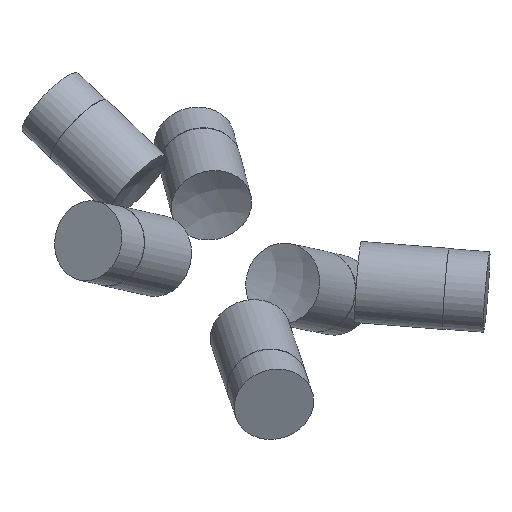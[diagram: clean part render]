
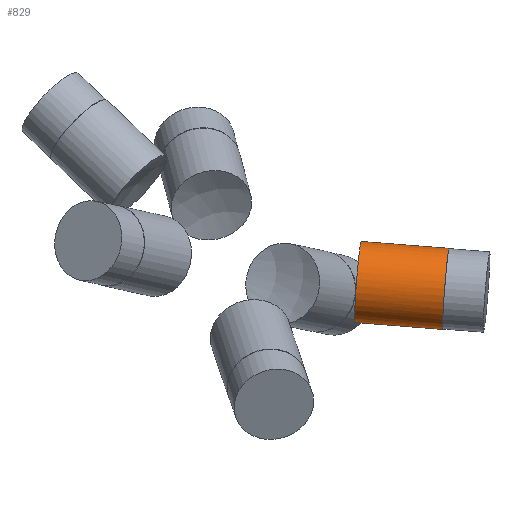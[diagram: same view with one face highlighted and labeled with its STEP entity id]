
A CAD part, top view. The second image highlights one B-rep face of the part: STEP entity #829.
In plain terms, the highlighted cylindrical face has radius 6 mm (diameter 12 mm), a full revolution.
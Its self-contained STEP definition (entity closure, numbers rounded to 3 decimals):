
#22 = VERTEX_POINT('',#23);
#23 = CARTESIAN_POINT('',(18.918,0.,
    6.488));
#33 = SPHERICAL_SURFACE('',#34,20.);
#34 = AXIS2_PLACEMENT_3D('',#35,#36,#37);
#35 = CARTESIAN_POINT('',(0.,0.,0.));
#36 = DIRECTION('',(0.,0.,1.));
#37 = DIRECTION('',(1.,0.,-0.));
#53 = EDGE_CURVE('',#54,#22,#56,.T.);
#54 = VERTEX_POINT('',#55);
#55 = CARTESIAN_POINT('',(19.474,4.506,0.674)
  );
#56 = SURFACE_CURVE('',#57,(#62,#80),.PCURVE_S1.);
#57 = CIRCLE('',#58,6.);
#58 = AXIS2_PLACEMENT_3D('',#59,#60,#61);
#59 = CARTESIAN_POINT('',(19.01,-1.476,0.674
    ));
#60 = DIRECTION('',(0.996,-0.077,
    0.035));
#61 = DIRECTION('',(0.077,0.997,0.)
  );
#62 = PCURVE('',#33,#63);
#63 = DEFINITIONAL_REPRESENTATION('',(#64),#79);
#64 = B_SPLINE_CURVE_WITH_KNOTS('',7,(#65,#66,#67,#68,#69,#70,#71,#72,
    #73,#74,#75,#76,#77,#78),.UNSPECIFIED.,.F.,.F.,(8,6,8),(0.,
    0.662,1.324),.UNSPECIFIED.);
#65 = CARTESIAN_POINT('',(0.227,0.034));
#66 = CARTESIAN_POINT('',(0.228,0.062));
#67 = CARTESIAN_POINT('',(0.225,0.09));
#68 = CARTESIAN_POINT('',(0.219,0.119));
#69 = CARTESIAN_POINT('',(0.211,0.146));
#70 = CARTESIAN_POINT('',(0.199,0.172));
#71 = CARTESIAN_POINT('',(0.185,0.197));
#72 = CARTESIAN_POINT('',(0.15,0.243));
#73 = CARTESIAN_POINT('',(0.13,0.264));
#74 = CARTESIAN_POINT('',(0.108,0.283));
#75 = CARTESIAN_POINT('',(0.083,0.299));
#76 = CARTESIAN_POINT('',(0.057,0.313));
#77 = CARTESIAN_POINT('',(0.029,0.323));
#78 = CARTESIAN_POINT('',(0.,0.33));
#79 = ( GEOMETRIC_REPRESENTATION_CONTEXT(2) 
PARAMETRIC_REPRESENTATION_CONTEXT() REPRESENTATION_CONTEXT('2D SPACE',''
  ) );
#80 = PCURVE('',#81,#86);
#81 = CYLINDRICAL_SURFACE('',#82,6.);
#82 = AXIS2_PLACEMENT_3D('',#83,#84,#85);
#83 = CARTESIAN_POINT('',(0.,0.,0.));
#84 = DIRECTION('',(0.996,-0.077,
    0.035));
#85 = DIRECTION('',(0.077,0.997,0.)
  );
#86 = DEFINITIONAL_REPRESENTATION('',(#87),#91);
#87 = LINE('',#88,#89);
#88 = CARTESIAN_POINT('',(0.,19.079));
#89 = VECTOR('',#90,1.);
#90 = DIRECTION('',(1.,0.));
#91 = ( GEOMETRIC_REPRESENTATION_CONTEXT(2) 
PARAMETRIC_REPRESENTATION_CONTEXT() REPRESENTATION_CONTEXT('2D SPACE',''
  ) );
#93 = EDGE_CURVE('',#94,#54,#96,.T.);
#94 = VERTEX_POINT('',#95);
#95 = CARTESIAN_POINT('',(19.33,0.,
    -5.133));
#96 = SURFACE_CURVE('',#97,(#102,#120),.PCURVE_S1.);
#97 = CIRCLE('',#98,6.);
#98 = AXIS2_PLACEMENT_3D('',#99,#100,#101);
#99 = CARTESIAN_POINT('',(19.01,-1.476,0.674
    ));
#100 = DIRECTION('',(0.996,-0.077,
    0.035));
#101 = DIRECTION('',(0.077,0.997,0.
    ));
#102 = PCURVE('',#33,#103);
#103 = DEFINITIONAL_REPRESENTATION('',(#104),#119);
#104 = B_SPLINE_CURVE_WITH_KNOTS('',7,(#105,#106,#107,#108,#109,#110,
    #111,#112,#113,#114,#115,#116,#117,#118),.UNSPECIFIED.,.F.,.F.,(8,6,
    8),(4.965,5.624,6.283),.UNSPECIFIED.);
#105 = CARTESIAN_POINT('',(0.,-0.26));
#106 = CARTESIAN_POINT('',(0.028,-0.252));
#107 = CARTESIAN_POINT('',(0.056,-0.242));
#108 = CARTESIAN_POINT('',(0.082,-0.229));
#109 = CARTESIAN_POINT('',(0.106,-0.212));
#110 = CARTESIAN_POINT('',(0.128,-0.194));
#111 = CARTESIAN_POINT('',(0.147,-0.173));
#112 = CARTESIAN_POINT('',(0.182,-0.128));
#113 = CARTESIAN_POINT('',(0.197,-0.104));
#114 = CARTESIAN_POINT('',(0.208,-0.078));
#115 = CARTESIAN_POINT('',(0.218,-0.051));
#116 = CARTESIAN_POINT('',(0.224,-0.023));
#117 = CARTESIAN_POINT('',(0.227,0.005));
#118 = CARTESIAN_POINT('',(0.227,0.034));
#119 = ( GEOMETRIC_REPRESENTATION_CONTEXT(2) 
PARAMETRIC_REPRESENTATION_CONTEXT() REPRESENTATION_CONTEXT('2D SPACE',''
  ) );
#120 = PCURVE('',#81,#121);
#121 = DEFINITIONAL_REPRESENTATION('',(#122),#126);
#122 = LINE('',#123,#124);
#123 = CARTESIAN_POINT('',(0.,19.079));
#124 = VECTOR('',#125,1.);
#125 = DIRECTION('',(1.,0.));
#126 = ( GEOMETRIC_REPRESENTATION_CONTEXT(2) 
PARAMETRIC_REPRESENTATION_CONTEXT() REPRESENTATION_CONTEXT('2D SPACE',''
  ) );
#353 = EDGE_CURVE('',#22,#94,#354,.T.);
#354 = SURFACE_CURVE('',#355,(#360,#394),.PCURVE_S1.);
#355 = CIRCLE('',#356,6.);
#356 = AXIS2_PLACEMENT_3D('',#357,#358,#359);
#357 = CARTESIAN_POINT('',(19.01,-1.476,
    0.674));
#358 = DIRECTION('',(0.996,-0.077,
    0.035));
#359 = DIRECTION('',(0.077,0.997,0.
    ));
#360 = PCURVE('',#33,#361);
#361 = DEFINITIONAL_REPRESENTATION('',(#362),#393);
#362 = B_SPLINE_CURVE_WITH_KNOTS('',8,(#363,#364,#365,#366,#367,#368,
    #369,#370,#371,#372,#373,#374,#375,#376,#377,#378,#379,#380,#381,
    #382,#383,#384,#385,#386,#387,#388,#389,#390,#391,#392),
  .UNSPECIFIED.,.F.,.F.,(9,7,7,7,9),(1.324,2.234,
    2.917,3.941,4.965),.UNSPECIFIED.);
#363 = CARTESIAN_POINT('',(6.283,0.33));
#364 = CARTESIAN_POINT('',(6.248,0.339));
#365 = CARTESIAN_POINT('',(6.212,0.343));
#366 = CARTESIAN_POINT('',(6.175,0.343));
#367 = CARTESIAN_POINT('',(6.139,0.338));
#368 = CARTESIAN_POINT('',(6.103,0.328));
#369 = CARTESIAN_POINT('',(6.07,0.313));
#370 = CARTESIAN_POINT('',(6.04,0.295));
#371 = CARTESIAN_POINT('',(5.992,0.257));
#372 = CARTESIAN_POINT('',(5.974,0.239));
#373 = CARTESIAN_POINT('',(5.957,0.219));
#374 = CARTESIAN_POINT('',(5.942,0.197));
#375 = CARTESIAN_POINT('',(5.93,0.174));
#376 = CARTESIAN_POINT('',(5.92,0.15));
#377 = CARTESIAN_POINT('',(5.913,0.126));
#378 = CARTESIAN_POINT('',(5.899,0.063));
#379 = CARTESIAN_POINT('',(5.897,0.024));
#380 = CARTESIAN_POINT('',(5.9,-0.015));
#381 = CARTESIAN_POINT('',(5.908,-0.053));
#382 = CARTESIAN_POINT('',(5.922,-0.09));
#383 = CARTESIAN_POINT('',(5.94,-0.124));
#384 = CARTESIAN_POINT('',(5.964,-0.155));
#385 = CARTESIAN_POINT('',(6.019,-0.209));
#386 = CARTESIAN_POINT('',(6.051,-0.233));
#387 = CARTESIAN_POINT('',(6.086,-0.251));
#388 = CARTESIAN_POINT('',(6.124,-0.265));
#389 = CARTESIAN_POINT('',(6.164,-0.272));
#390 = CARTESIAN_POINT('',(6.205,-0.274));
#391 = CARTESIAN_POINT('',(6.245,-0.269));
#392 = CARTESIAN_POINT('',(6.283,-0.26));
#393 = ( GEOMETRIC_REPRESENTATION_CONTEXT(2) 
PARAMETRIC_REPRESENTATION_CONTEXT() REPRESENTATION_CONTEXT('2D SPACE',''
  ) );
#394 = PCURVE('',#81,#395);
#395 = DEFINITIONAL_REPRESENTATION('',(#396),#400);
#396 = LINE('',#397,#398);
#397 = CARTESIAN_POINT('',(0.,19.079));
#398 = VECTOR('',#399,1.);
#399 = DIRECTION('',(1.,0.));
#400 = ( GEOMETRIC_REPRESENTATION_CONTEXT(2) 
PARAMETRIC_REPRESENTATION_CONTEXT() REPRESENTATION_CONTEXT('2D SPACE',''
  ) );
#829 = ADVANCED_FACE('',(#830),#81,.T.);
#830 = FACE_BOUND('',#831,.T.);
#831 = EDGE_LOOP('',(#832,#855,#882,#883,#884,#885));
#832 = ORIENTED_EDGE('',*,*,#833,.T.);
#833 = EDGE_CURVE('',#54,#834,#836,.T.);
#834 = VERTEX_POINT('',#835);
#835 = CARTESIAN_POINT('',(32.478,3.496,1.134
    ));
#836 = SEAM_CURVE('',#837,(#841,#848),.PCURVE_S1.);
#837 = LINE('',#838,#839);
#838 = CARTESIAN_POINT('',(0.465,5.982,
    0.));
#839 = VECTOR('',#840,1.);
#840 = DIRECTION('',(0.996,-0.077,
    0.035));
#841 = PCURVE('',#81,#842);
#842 = DEFINITIONAL_REPRESENTATION('',(#843),#847);
#843 = LINE('',#844,#845);
#844 = CARTESIAN_POINT('',(6.283,-0.));
#845 = VECTOR('',#846,1.);
#846 = DIRECTION('',(0.,1.));
#847 = ( GEOMETRIC_REPRESENTATION_CONTEXT(2) 
PARAMETRIC_REPRESENTATION_CONTEXT() REPRESENTATION_CONTEXT('2D SPACE',''
  ) );
#848 = PCURVE('',#81,#849);
#849 = DEFINITIONAL_REPRESENTATION('',(#850),#854);
#850 = LINE('',#851,#852);
#851 = CARTESIAN_POINT('',(0.,-0.));
#852 = VECTOR('',#853,1.);
#853 = DIRECTION('',(0.,1.));
#854 = ( GEOMETRIC_REPRESENTATION_CONTEXT(2) 
PARAMETRIC_REPRESENTATION_CONTEXT() REPRESENTATION_CONTEXT('2D SPACE',''
  ) );
#855 = ORIENTED_EDGE('',*,*,#856,.F.);
#856 = EDGE_CURVE('',#834,#834,#857,.T.);
#857 = SURFACE_CURVE('',#858,(#863,#870),.PCURVE_S1.);
#858 = CIRCLE('',#859,6.);
#859 = AXIS2_PLACEMENT_3D('',#860,#861,#862);
#860 = CARTESIAN_POINT('',(32.013,-2.486,
    1.134));
#861 = DIRECTION('',(0.996,-0.077,
    0.035));
#862 = DIRECTION('',(0.077,0.997,0.
    ));
#863 = PCURVE('',#81,#864);
#864 = DEFINITIONAL_REPRESENTATION('',(#865),#869);
#865 = LINE('',#866,#867);
#866 = CARTESIAN_POINT('',(0.,32.13));
#867 = VECTOR('',#868,1.);
#868 = DIRECTION('',(1.,0.));
#869 = ( GEOMETRIC_REPRESENTATION_CONTEXT(2) 
PARAMETRIC_REPRESENTATION_CONTEXT() REPRESENTATION_CONTEXT('2D SPACE',''
  ) );
#870 = PCURVE('',#871,#876);
#871 = PLANE('',#872);
#872 = AXIS2_PLACEMENT_3D('',#873,#874,#875);
#873 = CARTESIAN_POINT('',(32.013,-2.486,
    1.134));
#874 = DIRECTION('',(0.996,-0.077,
    0.035));
#875 = DIRECTION('',(0.077,0.997,0.
    ));
#876 = DEFINITIONAL_REPRESENTATION('',(#877),#881);
#877 = CIRCLE('',#878,6.);
#878 = AXIS2_PLACEMENT_2D('',#879,#880);
#879 = CARTESIAN_POINT('',(0.,0.));
#880 = DIRECTION('',(1.,0.));
#881 = ( GEOMETRIC_REPRESENTATION_CONTEXT(2) 
PARAMETRIC_REPRESENTATION_CONTEXT() REPRESENTATION_CONTEXT('2D SPACE',''
  ) );
#882 = ORIENTED_EDGE('',*,*,#833,.F.);
#883 = ORIENTED_EDGE('',*,*,#53,.T.);
#884 = ORIENTED_EDGE('',*,*,#353,.T.);
#885 = ORIENTED_EDGE('',*,*,#93,.T.);
